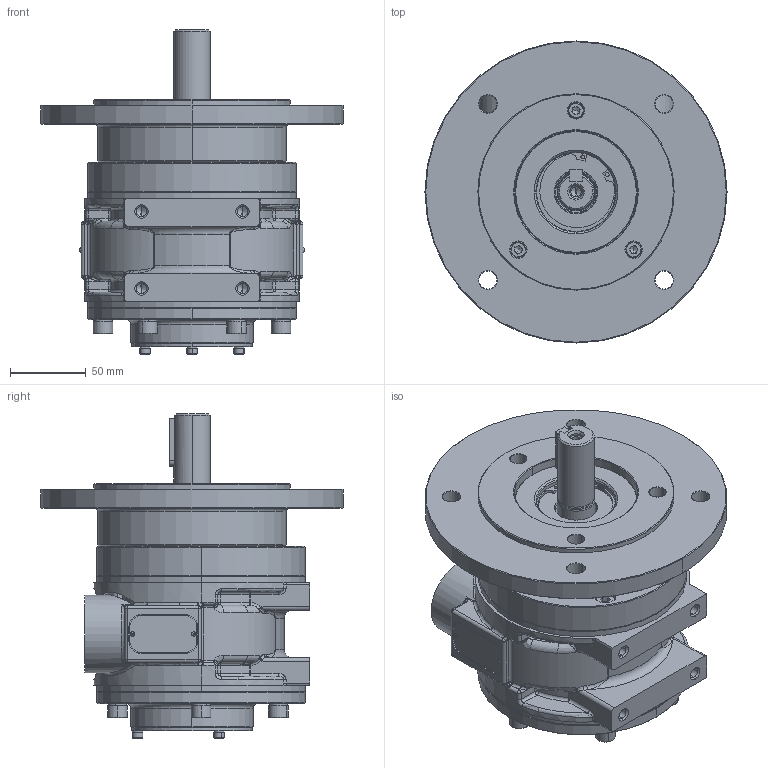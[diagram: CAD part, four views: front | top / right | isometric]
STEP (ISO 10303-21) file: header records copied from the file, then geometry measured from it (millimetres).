
FILE_DESCRIPTION (( 'STEP AP203' ), '1' );
FILE_NAME ('8VMD-IEC (Alu. End Plates)_24-04-26.STEP', '2026-04-24T08:10:37', ( '' ), ( '' ), 'SwSTEP 2.0', 'SolidWorks 2017', '' );
FILE_SCHEMA (( 'CONFIG_CONTROL_DESIGN' ));
Products named in the file (2): 8VMD-IEC (Alu. End Plates)_24-04-26
Bounding box: 200 x 200 x 214.9 mm (x, y, z)
Volume: 817132.9 mm3; surface area: 317861.7 mm2
Topology: 41 solids, 42 shells, 1854 faces, 4165 edges, 2328 vertices
Faces by surface type: cylinder 585, cone 525, plane 398, torus 155, bspline 155, sphere 36
Entity records: 336180 total; most frequent: CARTESIAN_POINT 200067, ORIENTED_EDGE 30562, DIRECTION 22133, EDGE_CURVE 15281, VERTEX_POINT 9700, EDGE_LOOP 8903, AXIS2_PLACEMENT_3D 8266, B_SPLINE_CURVE_WITH_KNOTS 6918
